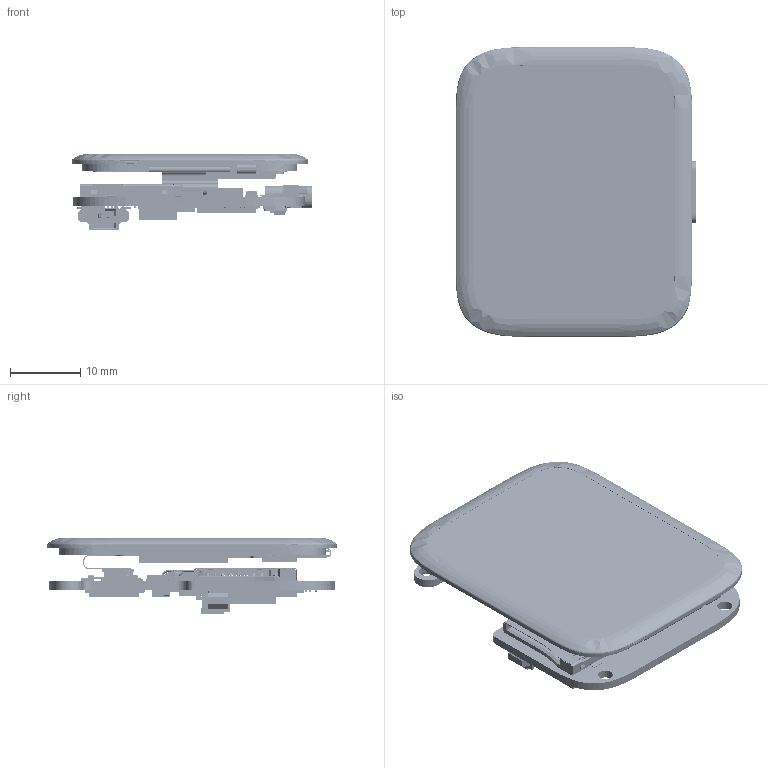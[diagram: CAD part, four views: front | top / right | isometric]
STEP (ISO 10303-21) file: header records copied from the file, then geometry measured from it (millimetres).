
FILE_DESCRIPTION((''),'2;1');
FILE_NAME('ESP32-S3-TOUCH-AMOLED-1_8_ASM','2025-03-04T15:30:51',('xiaojisheng'),(''),'CREO PARAMETRIC BY PTC INC, 2021063','CREO PARAMETRIC BY PTC INC, 2021063','');
FILE_SCHEMA(('CONFIG_CONTROL_DESIGN','SHAPE_APPEARANCE_LAYERS_GROUPS'));
Products named in the file (204): SPEC-DO0180FMST08; TYPE-C-SINK1_6-6_5MM-16PIN; BOARD; USER_LIBRARY-0201_0603M__CAP_1; USER_LIBRARY-0201_0603M__CAP_2; USER_LIBRARY-0201_0603M__CAP_3; USER_LIBRARY-0201_0603M__CAP_ASM; CP13_ASM; USER_LIBRARY-RES_0603-0201_1; USER_LIBRARY-RES_0603-0201_2; USER_LIBRARY-RES_0603-0201_3; USER_LIBRARY-RES_0603-0201_4; USER_LIBRARY-RES_0603-0201_ASM; RP4_ASM; _2_1_2_3_4_AF0; _7_1_2_AF0; 5_1_2_3_400; R_0603-3601_AF0_ASM_ASM; R_0603-3615_AF0_ASM_ASM; R0603_ASM; RP3_ASM; EXTRUDED-86384; 489935248_ASM; LP2_ASM; CP12_ASM; 2_1_200; _1_1_20001; 3_1_2_A; C_0603-683_AF0_ASM_ASM; C_0603-7177_AF0_ASM_ASM; C_0603_ASM; CP11_ASM; LP1_ASM; CP10_ASM; CP9_ASM; CP3_ASM; CP1_ASM; EXTRUDED-126840; 489933200_ASM; Y1_ASM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
Assembly tree (320 placements, depth 9):
  ESP32-S3-TOUCH-AMOLED-1_8_ASM
    SPEC-DO0180FMST08
    ESP32-S3-TOUCH-LCD-1_78-PCBA_ASM
      TYPE-C-SINK1_6-6_5MM-16PIN
      ESP32-S3-T_OLED-1_8-PCBA240905_ASM
        PCB_ASM
          BOARD
          CP13_ASM
            USER_LIBRARY-0201_0603M__CAP_ASM
              USER_LIBRARY-0201_0603M__CAP_1
              USER_LIBRARY-0201_0603M__CAP_2
              USER_LIBRARY-0201_0603M__CAP_3
          RP4_ASM
            USER_LIBRARY-RES_0603-0201_ASM
              USER_LIBRARY-RES_0603-0201_1
              USER_LIBRARY-RES_0603-0201_2
              USER_LIBRARY-RES_0603-0201_3
              USER_LIBRARY-RES_0603-0201_4
          RP3_ASM
            R0603_ASM
              R_0603-3615_AF0_ASM_ASM
                R_0603-3601_AF0_ASM_ASM
                  _2_1_2_3_4_AF0
                  _7_1_2_AF0
                  5_1_2_3_400
          LP2_ASM
            489935248_ASM
              EXTRUDED-86384
          CP12_ASM
            USER_LIBRARY-0201_0603M__CAP_ASM
              USER_LIBRARY-0201_0603M__CAP_1
              USER_LIBRARY-0201_0603M__CAP_2
              USER_LIBRARY-0201_0603M__CAP_3
          CP11_ASM
            C_0603_ASM
              C_0603-7177_AF0_ASM_ASM
                C_0603-683_AF0_ASM_ASM
                  2_1_200
                  _1_1_20001
                  3_1_2_A
          LP1_ASM
            489935248_ASM
              EXTRUDED-86384
          CP10_ASM
            USER_LIBRARY-0201_0603M__CAP_ASM
              USER_LIBRARY-0201_0603M__CAP_1
              USER_LIBRARY-0201_0603M__CAP_2
              USER_LIBRARY-0201_0603M__CAP_3
          CP9_ASM
            USER_LIBRARY-0201_0603M__CAP_ASM
              USER_LIBRARY-0201_0603M__CAP_1
              USER_LIBRARY-0201_0603M__CAP_2
              USER_LIBRARY-0201_0603M__CAP_3
          CP3_ASM
            USER_LIBRARY-0201_0603M__CAP_ASM
              USER_LIBRARY-0201_0603M__CAP_1
              USER_LIBRARY-0201_0603M__CAP_2
              USER_LIBRARY-0201_0603M__CAP_3
          CP1_ASM
            C_0603_ASM
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Bounding box: 34.2 x 41.2 x 10.9 mm (x, y, z)
Volume: 5286.1 mm3; surface area: 9068.8 mm2
Topology: 423 solids, 429 shells, 21606 faces, 56581 edges, 36405 vertices
Faces by surface type: plane 12886, extrusion 5381, cylinder 2567, sphere 664, cone 66, bspline 28, torus 14
Entity records: 233224 total; most frequent: CARTESIAN_POINT 52299, ORIENTED_EDGE 27842, DIRECTION 25347, PRESENTATION_STYLE_ASSIGNMENT 14724, STYLED_ITEM 14147, CURVE_STYLE 14002, EDGE_CURVE 13934, VECTOR 11567
